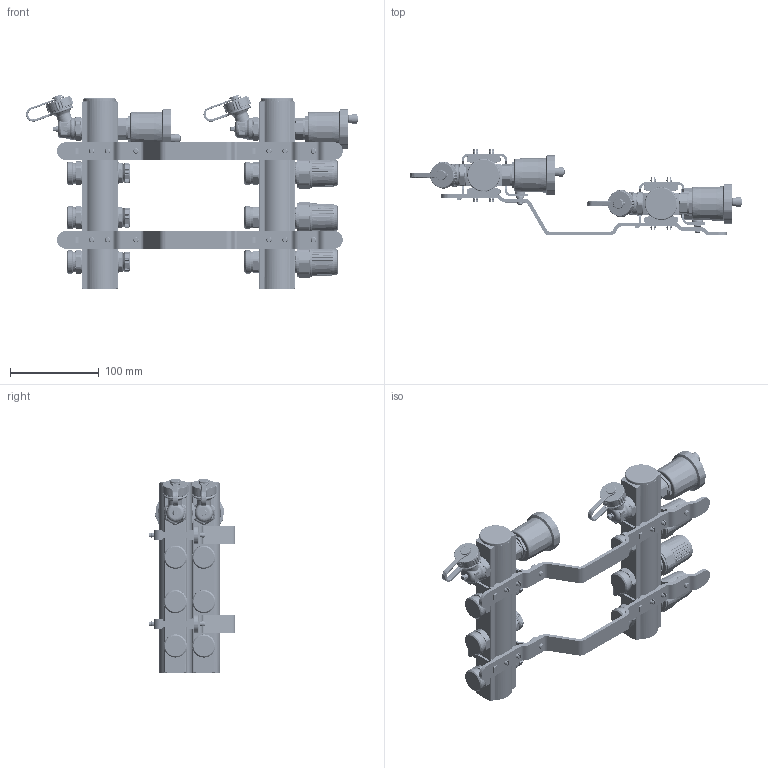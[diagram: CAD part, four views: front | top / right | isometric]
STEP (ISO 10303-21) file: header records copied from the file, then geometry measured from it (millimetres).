
FILE_DESCRIPTION(('STEP AP203'), '1');
FILE_NAME('ÂÐ.622621.155.000-VTc.594.EMNX.0603', '2025-11-26T13:10:26', ('verevichevva'), ('Vesta'), 'C3D Converter', 'C3D Toolkit', '');
FILE_SCHEMA(('CONFIG_CONTROL_DESIGN'));
Length unit declared in the file: millimetre
Products named in the file (1): ВР.622621.155.000
Bounding box: 374.1 x 97.53 x 219.7 mm (x, y, z)
Volume: 980757.5 mm3; surface area: 183051.2 mm2
Topology: 1 solids, 1 shells, 7883 faces, 20689 edges, 12663 vertices
Faces by surface type: cylinder 2302, bspline 1954, plane 1470, torus 1228, cone 731, sphere 198
Full cylindrical faces by diameter (mm): 4.2 x2, 6 x12, 6.8 x4, 7 x2, 8.352 x4, 8.4 x4, 9.5 x2, 11.2 x2, 11.5 x2, 12 x4, 16 x2, 17 x3, 18 x11, 20.8 x3, 21.5 x3, 23.3 x6, 24.5 x3, 25 x11, 25.8 x2, 26.1 x6, 28.4 x2, 33 x3, 34 x3
Entity records: 448927 total; most frequent: CARTESIAN_POINT 277473, ORIENTED_EDGE 40334, DIRECTION 28954, EDGE_CURVE 20167, VERTEX_POINT 12653, AXIS2_PLACEMENT_3D 12220, B_SPLINE_CURVE_WITH_KNOTS 9255, EDGE_LOOP 8400
